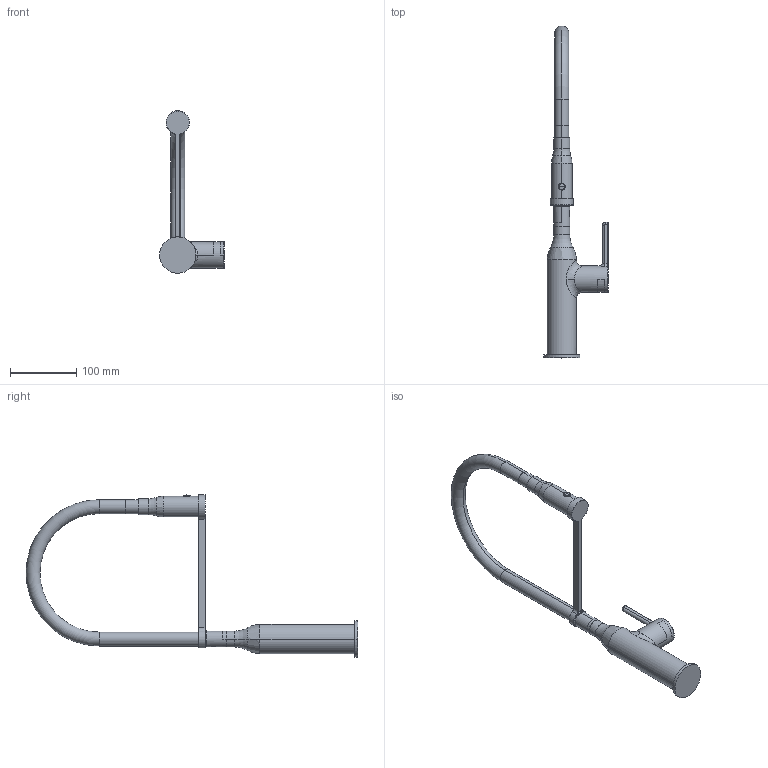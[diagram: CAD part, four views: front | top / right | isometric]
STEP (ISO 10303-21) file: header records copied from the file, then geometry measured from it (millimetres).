
FILE_DESCRIPTION((''),'2;1');
FILE_NAME('10_261_432_XXX','2012-01-05T',('ahf'),(''),'PRO/ENGINEER BY PARAMETRIC TECHNOLOGY CORPORATION, 2011080','PRO/ENGINEER BY PARAMETRIC TECHNOLOGY CORPORATION, 2011080','');
FILE_SCHEMA(('AUTOMOTIVE_DESIGN_CC2 { 1 2 10303 214 -1 1 5 2 }'));
Length unit declared in the file: millimetre
Products named in the file (1): 10_261_432_XXX
Bounding box: 97.96 x 501.3 x 245.5 mm (x, y, z)
Volume: 487783.7 mm3; surface area: 122569.3 mm2
Topology: 1 solids, 1 shells, 145 faces, 334 edges, 201 vertices
Faces by surface type: cylinder 57, torus 34, plane 25, bspline 21, cone 6, sphere 2
Entity records: 7754 total; most frequent: CARTESIAN_POINT 3652, DIRECTION 720, ORIENTED_EDGE 664, EDGE_CURVE 332, AXIS2_PLACEMENT_3D 312, VERTEX_POINT 201, CIRCLE 188, EDGE_LOOP 157
